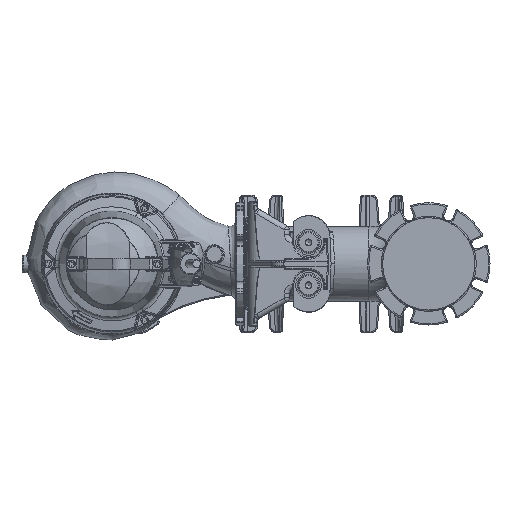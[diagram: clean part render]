
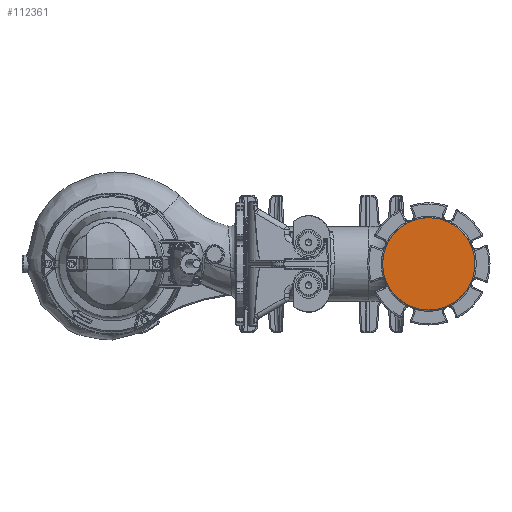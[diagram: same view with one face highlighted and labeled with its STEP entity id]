
A CAD part, left-side view. The second image highlights one B-rep face of the part: STEP entity #112361.
In plain terms, the highlighted planar face has unit normal (-1, 0, 0).
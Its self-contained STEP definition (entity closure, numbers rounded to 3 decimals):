
#13126 = FACE_OUTER_BOUND ( 'NONE', #94141, .T. ) ;
#13822 = CARTESIAN_POINT ( 'NONE',  ( -200., 0., 107.5 ) ) ;
#33686 = AXIS2_PLACEMENT_3D ( 'NONE', #41445, #40428, #136565 ) ;
#35269 = AXIS2_PLACEMENT_3D ( 'NONE', #84271, #94837, #60688 ) ;
#40428 = DIRECTION ( 'NONE',  ( -1., 0., 0. ) ) ;
#41445 = CARTESIAN_POINT ( 'NONE',  ( -200., 0., 0. ) ) ;
#60688 = DIRECTION ( 'NONE',  ( 0., 0., 1. ) ) ;
#70556 = VERTEX_POINT ( 'NONE', #13822 ) ;
#76118 = PLANE ( 'NONE',  #33686 ) ;
#84271 = CARTESIAN_POINT ( 'NONE',  ( -200., 0., 0. ) ) ;
#93293 = EDGE_CURVE ( 'NONE', #70556, #70556, #114019, .T. ) ;
#94141 = EDGE_LOOP ( 'NONE', ( #125830 ) ) ;
#94837 = DIRECTION ( 'NONE',  ( -1., 0., 0. ) ) ;
#112361 = ADVANCED_FACE ( 'NONE', ( #13126 ), #76118, .T. ) ;
#114019 = CIRCLE ( 'NONE', #35269, 107.5 ) ;
#125830 = ORIENTED_EDGE ( 'NONE', *, *, #93293, .T. ) ;
#136565 = DIRECTION ( 'NONE',  ( 0., 0., 1. ) ) ;
